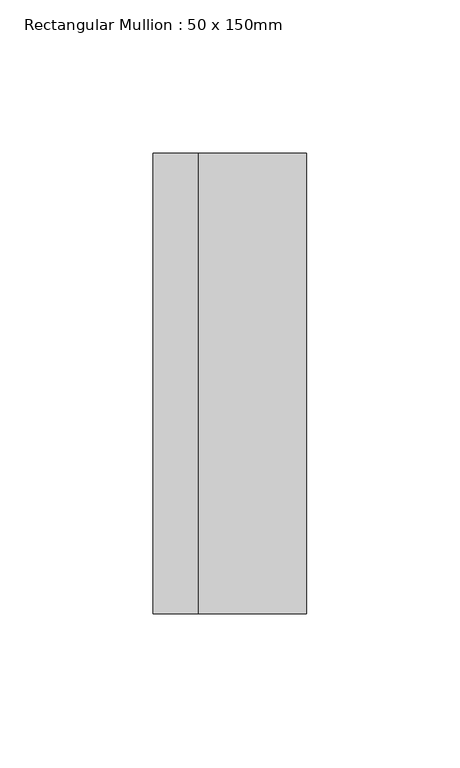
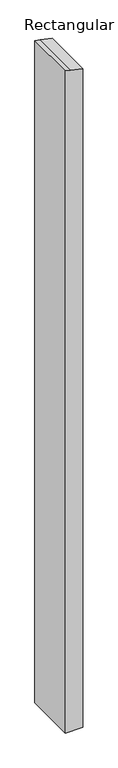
"""IFC4 building model written with IfcOpenShell, lengths in millimetres: member geometry, Rectangular Mullion : 50 x 150mm."""

from ifc_helpers import new_model, si_unit, frame, origin, place, context, project, spatial, polyline, outline, extrude, source, transform, mapped, element, save


def rectangular_mullion_50_x_150mm_b50a1081(model_context):
    return source(origin(), model_context, "Body", "SweptSolid", [
        extrude(outline(polyline([(-56.4569607, 25.0), (-48.9595985, -10.1508214), (-45.9692116, -25.0), (-2035.9563751, -25.0), (-2035.9563751, 25.0), (-56.4569607, 25.0)])), frame((0.0, -75.0, 0.0), z_axis=(0.0, 1.0, 0.0), x_axis=(0.0, 0.0, 1.0)), (0.0, 0.0, 1.0), 150.0),
    ])


if __name__ == "__main__":
    model = new_model("IFC4")
    model_context = context("Model", 3, world=origin())
    ifc_project = project(units=[si_unit("LENGTHUNIT", "METRE", prefix="MILLI")], contexts=[model_context])
    site = spatial("IfcSite", under=ifc_project)
    building = spatial("IfcBuilding", under=site)
    placement = place(None, origin())
    rectangular_mullion_50_x_150mm_shape = rectangular_mullion_50_x_150mm_b50a1081(model_context)
    element("IfcMember", 1, ObjectType="Rectangular Mullion : 50 x 150mm", at=placement, inside=building, context=model_context, shape_type="MappedRepresentation", body=[
        mapped(rectangular_mullion_50_x_150mm_shape, transform((0.0, 0.0, 0.0), x_axis=(1.0, 0.0, 0.0), y_axis=(0.0, 1.0, 0.0), z_axis=(0.0, 0.0, 1.0))),
    ])
    save(model, "model.ifc")
